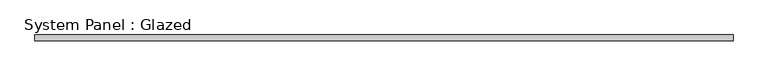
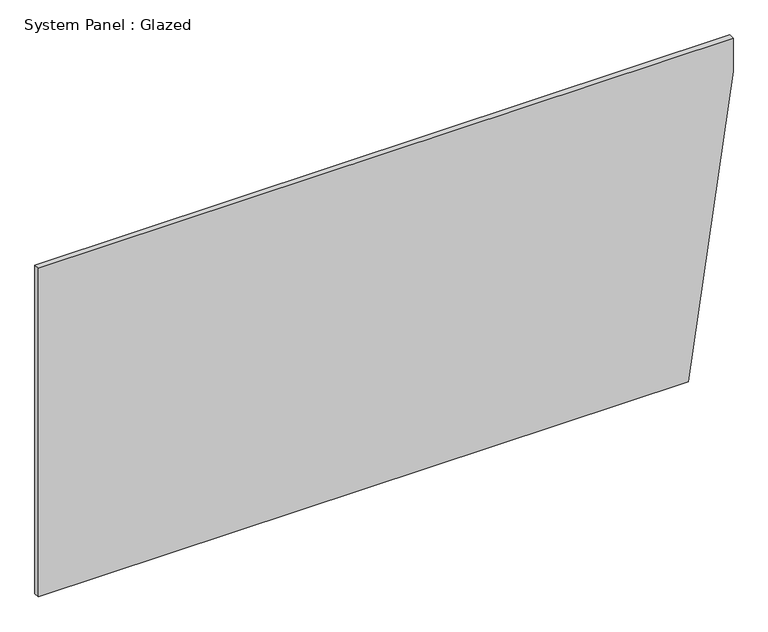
"""IFC4 building model written with IfcOpenShell, lengths in millimetres: plate geometry, System Panel : Glazed."""

import ifcopenshell
import ifcopenshell.guid

model = None  # the IFC model being written
_history = None  # IfcOwnerHistory: only IFC2X3 demands one
_inside = {}  # id of a spatial element -> (the spatial element, [elements in it])
_under = {}  # id of a project, library or spatial element -> (it, [spatial elements below it])
_declared = {}  # id of a project -> (the project, [libraries it declares])
_typed = {}  # id of a type object -> (the type object, [elements of that type])
_made_of = {}  # id of a material, layer set ... -> (it, [elements and type objects made of it])


def new_model(schema):
    """Start an empty IFC model of exactly this schema.

    Asked for "IFC4X3", IfcOpenShell would pick the latest addendum, in which some entities
    have other attributes; the version numbers below select the first issue.
    IFC2X3 requires an IfcOwnerHistory on every rooted entity: one is made here for all.
    """
    global model, _history
    if schema == "IFC4X3":
        model = ifcopenshell.file(schema_version=(4, 3, 0, 0))
    else:
        model = ifcopenshell.file(schema=schema)
    _inside.clear()
    _under.clear()
    _declared.clear()
    _typed.clear()
    _made_of.clear()
    _history = None
    if model.schema == "IFC2X3":
        org = make("IfcOrganization", Name="unknown")
        user = make(
            "IfcPersonAndOrganization",
            ThePerson=make("IfcPerson", FamilyName="unknown"),
            TheOrganization=org,
        )
        app = make(
            "IfcApplication",
            ApplicationDeveloper=org,
            Version="unknown",
            ApplicationFullName="unknown",
            ApplicationIdentifier="unknown",
        )
        _history = make(
            "IfcOwnerHistory",
            OwningUser=user,
            OwningApplication=app,
            ChangeAction="ADDED",
            CreationDate=0,
        )
    return model


def make(cls, **values):
    """One entity of the class cls with the attributes given. An attribute that is None is left unset."""
    return model.create_entity(
        cls, **{name: value for name, value in values.items() if value is not None}
    )


def rooted(cls, **values):
    """An entity with a GlobalId (a new one), such as an element, a storey or a relation."""
    return make(cls, GlobalId=ifcopenshell.guid.new(), OwnerHistory=_history, **values)


def si_unit(unit_type, name, prefix=None):
    """IfcSIUnit, for example si_unit("LENGTHUNIT", "METRE", prefix="MILLI")."""
    return make("IfcSIUnit", UnitType=unit_type, Prefix=prefix, Name=name)


def assignment(units):
    """IfcUnitAssignment: the units of a project."""
    return None if units is None else make("IfcUnitAssignment", Units=units)


def point(xyz):
    """IfcCartesianPoint."""
    return None if xyz is None else make("IfcCartesianPoint", Coordinates=xyz)


def direction(xyz):
    """IfcDirection."""
    return None if xyz is None else make("IfcDirection", DirectionRatios=xyz)


def frame(location, z_axis=None, x_axis=None):
    """IfcAxis2Placement3D, a coordinate frame: its origin and axes. An axis left out is left unset."""
    return make(
        "IfcAxis2Placement3D",
        Location=point(location),
        Axis=direction(z_axis),
        RefDirection=direction(x_axis),
    )


def origin():
    """The frame at (0, 0, 0) with its axes left unset."""
    return frame((0.0, 0.0, 0.0))


def place(relative_to, where):
    """IfcLocalPlacement: puts the frame where relative to a parent placement (None: the world)."""
    return make(
        "IfcLocalPlacement", PlacementRelTo=relative_to, RelativePlacement=where
    )


def context(
    kind, dimensions, precision=None, world=None, true_north=None, identifier=None
):
    """IfcGeometricRepresentationContext, for example the 3D "Model" context."""
    return make(
        "IfcGeometricRepresentationContext",
        ContextIdentifier=identifier,
        ContextType=kind,
        CoordinateSpaceDimension=dimensions,
        Precision=precision,
        WorldCoordinateSystem=world,
        TrueNorth=true_north,
    )


def project(units=None, contexts=None):
    """IfcProject with its units and contexts."""
    return rooted(
        "IfcProject",
        Name="project",
        RepresentationContexts=contexts,
        UnitsInContext=assignment(units),
    )


def spatial(cls, under=None, at=None, **own):
    """A site, building, storey or space (cls), placed at a placement, below another one or the project."""
    s = rooted(cls, ObjectPlacement=at, **own)
    if under is not None:
        _under.setdefault(under.id(), (under, []))[1].append(s)
    return s


def polyline(points):
    """IfcPolyline through the points."""
    return make("IfcPolyline", Points=[point(p) for p in points])


def outline(outer, holes=None, kind="AREA"):
    """IfcArbitraryClosedProfileDef: a profile drawn as a closed curve; with holes, ...WithVoids."""
    if holes is None:
        return make("IfcArbitraryClosedProfileDef", ProfileType=kind, OuterCurve=outer)
    return make(
        "IfcArbitraryProfileDefWithVoids",
        ProfileType=kind,
        OuterCurve=outer,
        InnerCurves=holes,
    )


def extrude(swept, where, along, depth):
    """IfcExtrudedAreaSolid: the profile swept, set in the frame where, extruded along a direction by depth."""
    return make(
        "IfcExtrudedAreaSolid",
        SweptArea=swept,
        Position=where,
        ExtrudedDirection=direction(along),
        Depth=depth,
    )


def shape(context_of_items, identifier, shape_type, items):
    """IfcShapeRepresentation: the items that make up one representation, for example the "Body"."""
    return make(
        "IfcShapeRepresentation",
        ContextOfItems=context_of_items,
        RepresentationIdentifier=identifier,
        RepresentationType=shape_type,
        Items=items,
    )


def source(mapping_origin, context_of_items, identifier, shape_type, items):
    """IfcRepresentationMap: a shape defined once, which mapped items show again and again."""
    return make(
        "IfcRepresentationMap",
        MappingOrigin=mapping_origin,
        MappedRepresentation=shape(context_of_items, identifier, shape_type, items),
    )


def transform(
    local_origin,
    x_axis=None,
    y_axis=None,
    z_axis=None,
    scale=None,
    scale2=None,
    scale3=None,
    uniform=True,
):
    """IfcCartesianTransformationOperator3D, or its non-uniform kind. x_axis, y_axis, z_axis: its Axis1, 2, 3."""
    if uniform:
        return make(
            "IfcCartesianTransformationOperator3D",
            Axis1=direction(x_axis),
            Axis2=direction(y_axis),
            LocalOrigin=point(local_origin),
            Scale=scale,
            Axis3=direction(z_axis),
        )
    return make(
        "IfcCartesianTransformationOperator3DnonUniform",
        Axis1=direction(x_axis),
        Axis2=direction(y_axis),
        LocalOrigin=point(local_origin),
        Scale=scale,
        Axis3=direction(z_axis),
        Scale2=scale2,
        Scale3=scale3,
    )


def mapped(mapping_source, mapping_target):
    """IfcMappedItem: shows the shape of a source again, moved by a transform."""
    return make(
        "IfcMappedItem", MappingSource=mapping_source, MappingTarget=mapping_target
    )


def made_of(thing, what):
    """Note that an element or type object is made of a material, layer set ...; save() writes the relation."""
    if what is not None:
        _made_of.setdefault(what.id(), (what, []))[1].append(thing)
    return thing


def element(
    cls,
    number,
    at=None,
    inside=None,
    cuts=None,
    type_object=None,
    material=None,
    context=None,
    identifier="Body",
    shape_type=None,
    held_by="IfcProductDefinitionShape",
    body=None,
    shapes=None,
    **own,
):
    """One element of the class cls, such as IfcWall. Its Tag is "e" and its number.

    at: its placement. inside: the storey or other place that contains it. cuts: it is an
    opening in that element (IfcRelVoidsElement). A single representation is given by context,
    identifier, shape_type and body (its items); several are given by shapes. held_by: the class
    of the entity that holds the representations. save() writes the other relations.
    """
    e = rooted(cls, Tag="e%d" % number, ObjectPlacement=at, **own)
    if body is not None:
        shapes = [shape(context, identifier, shape_type, body)]
    if shapes is not None:
        e.Representation = make(held_by, Representations=shapes)
    if inside is not None:
        _inside.setdefault(inside.id(), (inside, []))[1].append(e)
    if cuts is not None:
        rooted(
            "IfcRelVoidsElement", RelatingBuildingElement=cuts, RelatedOpeningElement=e
        )
    if type_object is not None:
        _typed.setdefault(type_object.id(), (type_object, []))[1].append(e)
    return made_of(e, material)


def aggregate(whole, parts):
    """IfcRelAggregates: a whole, such as a stair, and the parts it consists of."""
    return rooted("IfcRelAggregates", RelatingObject=whole, RelatedObjects=parts)


def save(model, path):
    """Write the relations noted so far, then the file.

    IfcRelAggregates (storeys below a building ...), IfcRelContainedInSpatialStructure (elements
    in a storey), IfcRelDefinesByType, IfcRelAssociatesMaterial and IfcRelDeclares: one each for
    every whole, place, type object, material and project.
    """
    for whole, parts in _under.values():
        aggregate(whole, parts)
    for where, things in _inside.values():
        rooted(
            "IfcRelContainedInSpatialStructure",
            RelatedElements=things,
            RelatingStructure=where,
        )
    for kind, things in _typed.values():
        rooted("IfcRelDefinesByType", RelatedObjects=things, RelatingType=kind)
    for what, things in _made_of.values():
        rooted("IfcRelAssociatesMaterial", RelatedObjects=things, RelatingMaterial=what)
    for by, libraries in _declared.values():
        rooted("IfcRelDeclares", RelatingContext=by, RelatedDefinitions=libraries)
    model.write(path)


def system_panel_glazed_63369c7e(model_context):
    return source(origin(), model_context, "Body", "SweptSolid", [
        extrude(outline(polyline([(0.0, -1524.0000001), (0.0, 1326.6474818), (1371.6000021, 1524.0000001), (1524.0, 1524.0000001), (1524.0, -1524.0000001), (0.0, -1524.0000001)])), frame((0.0, 19.05, 0.0), z_axis=(0.0, 1.0, 0.0), x_axis=(0.0, 0.0, 1.0)), (0.0, 0.0, 1.0), 25.4),
    ])


if __name__ == "__main__":
    model = new_model("IFC4")
    model_context = context("Model", 3, world=origin())
    ifc_project = project(units=[si_unit("LENGTHUNIT", "METRE", prefix="MILLI")], contexts=[model_context])
    site = spatial("IfcSite", under=ifc_project)
    building = spatial("IfcBuilding", under=site)
    placement = place(None, origin())
    system_panel_glazed_shape = system_panel_glazed_63369c7e(model_context)
    element("IfcPlate", 1, ObjectType="System Panel : Glazed", at=placement, inside=building, context=model_context, shape_type="MappedRepresentation", body=[
        mapped(system_panel_glazed_shape, transform((0.0, 0.0, 0.0), x_axis=(1.0, 0.0, 0.0), y_axis=(0.0, 1.0, 0.0), z_axis=(0.0, 0.0, 1.0))),
    ])
    save(model, "model.ifc")
